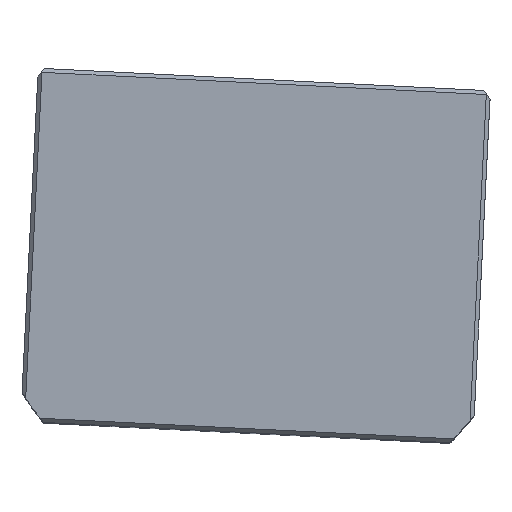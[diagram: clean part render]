
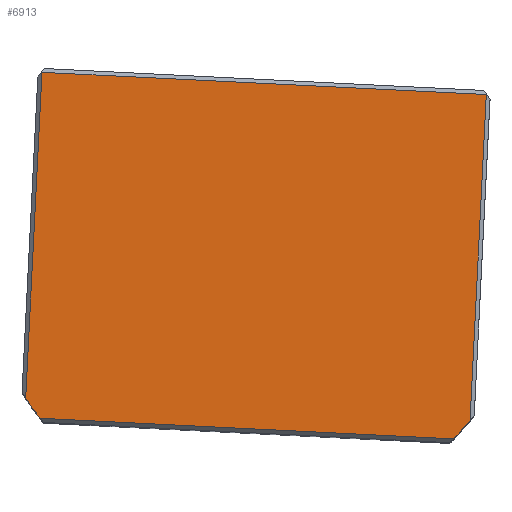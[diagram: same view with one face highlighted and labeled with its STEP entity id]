
A CAD part, top view. The second image highlights one B-rep face of the part: STEP entity #6913.
In plain terms, the highlighted planar face has unit normal (0, 0, 1) as drawn and (0, 0, -1) by its records, which use the part's own axes.
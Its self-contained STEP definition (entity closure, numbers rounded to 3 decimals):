
#879 = DIRECTION ( 'NONE',  ( 0., 0., 1. ) ) ;
#1634 = CARTESIAN_POINT ( 'NONE',  ( 0., -2.5, 0. ) ) ;
#2206 = AXIS2_PLACEMENT_3D ( 'NONE', #11780, #879, #13623 ) ;
#3280 = EDGE_CURVE ( 'NONE', #12749, #7807, #11772, .T. ) ;
#3471 = ORIENTED_EDGE ( 'NONE', *, *, #10962, .F. ) ;
#3493 = DIRECTION ( 'NONE',  ( 1., 0., 0. ) ) ;
#3654 = CARTESIAN_POINT ( 'NONE',  ( 56., 0., 0. ) ) ;
#3949 = ORIENTED_EDGE ( 'NONE', *, *, #7823, .F. ) ;
#3992 = EDGE_CURVE ( 'NONE', #6454, #12636, #21076, .T. ) ;
#4257 = CIRCLE ( 'NONE', #2206, 69.5 ) ;
#4529 = DIRECTION ( 'NONE',  ( 0., 1., 0. ) ) ;
#5316 = LINE ( 'NONE', #21815, #18619 ) ;
#5564 = ORIENTED_EDGE ( 'NONE', *, *, #3992, .T. ) ;
#6196 = AXIS2_PLACEMENT_3D ( 'NONE', #15680, #19316, #8497 ) ;
#6357 = CARTESIAN_POINT ( 'NONE',  ( -56., 0., 0. ) ) ;
#6454 = VERTEX_POINT ( 'NONE', #20133 ) ;
#6889 = ORIENTED_EDGE ( 'NONE', *, *, #22910, .T. ) ;
#6913 = ADVANCED_FACE ( 'NONE', ( #10325 ), #17508, .F. ) ;
#7807 = VERTEX_POINT ( 'NONE', #8815 ) ;
#7823 = EDGE_CURVE ( 'NONE', #12749, #12253, #22927, .T. ) ;
#8497 = DIRECTION ( 'NONE',  ( 1., 0., 0. ) ) ;
#8785 = DIRECTION ( 'NONE',  ( 1., 0., 0. ) ) ;
#8815 = CARTESIAN_POINT ( 'NONE',  ( 52.098, 43.5, 0. ) ) ;
#10325 = FACE_OUTER_BOUND ( 'NONE', #14241, .T. ) ;
#10912 = CARTESIAN_POINT ( 'NONE',  ( -56., -43.5, 0. ) ) ;
#10962 = EDGE_CURVE ( 'NONE', #6454, #7807, #4257, .T. ) ;
#10979 = CARTESIAN_POINT ( 'NONE',  ( -56., 38.661, 0. ) ) ;
#11047 = VECTOR ( 'NONE', #4529, 1000. ) ;
#11071 = DIRECTION ( 'NONE',  ( -1., 0., 0. ) ) ;
#11172 = ORIENTED_EDGE ( 'NONE', *, *, #3280, .T. ) ;
#11194 = VECTOR ( 'NONE', #8785, 1000. ) ;
#11479 = VECTOR ( 'NONE', #16332, 1000. ) ;
#11617 = LINE ( 'NONE', #6357, #11047 ) ;
#11772 = LINE ( 'NONE', #14254, #11194 ) ;
#11780 = CARTESIAN_POINT ( 'NONE',  ( 0., -2.5, 0. ) ) ;
#12253 = VERTEX_POINT ( 'NONE', #10979 ) ;
#12636 = VERTEX_POINT ( 'NONE', #20626 ) ;
#12749 = VERTEX_POINT ( 'NONE', #13685 ) ;
#13623 = DIRECTION ( 'NONE',  ( 1., 0., 0. ) ) ;
#13685 = CARTESIAN_POINT ( 'NONE',  ( -52.098, 43.5, 0. ) ) ;
#14241 = EDGE_LOOP ( 'NONE', ( #3471, #5564, #6889, #22557, #3949, #11172 ) ) ;
#14254 = CARTESIAN_POINT ( 'NONE',  ( 0., 43.5, 0. ) ) ;
#14364 = DIRECTION ( 'NONE',  ( 0., 0., 1. ) ) ;
#15680 = CARTESIAN_POINT ( 'NONE',  ( 0., 0., 0. ) ) ;
#15980 = EDGE_CURVE ( 'NONE', #18822, #12253, #11617, .T. ) ;
#16332 = DIRECTION ( 'NONE',  ( 0., -1., 0. ) ) ;
#16630 = AXIS2_PLACEMENT_3D ( 'NONE', #1634, #14364, #3493 ) ;
#17508 = PLANE ( 'NONE',  #6196 ) ;
#18619 = VECTOR ( 'NONE', #11071, 1000. ) ;
#18822 = VERTEX_POINT ( 'NONE', #10912 ) ;
#19316 = DIRECTION ( 'NONE',  ( 0., 0., 1. ) ) ;
#20133 = CARTESIAN_POINT ( 'NONE',  ( 56., 38.661, 0. ) ) ;
#20626 = CARTESIAN_POINT ( 'NONE',  ( 56., -43.5, 0. ) ) ;
#21076 = LINE ( 'NONE', #3654, #11479 ) ;
#21815 = CARTESIAN_POINT ( 'NONE',  ( 0., -43.5, 0. ) ) ;
#22557 = ORIENTED_EDGE ( 'NONE', *, *, #15980, .T. ) ;
#22910 = EDGE_CURVE ( 'NONE', #12636, #18822, #5316, .T. ) ;
#22927 = CIRCLE ( 'NONE', #16630, 69.5 ) ;
